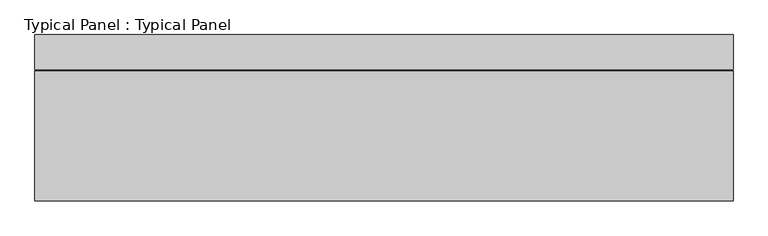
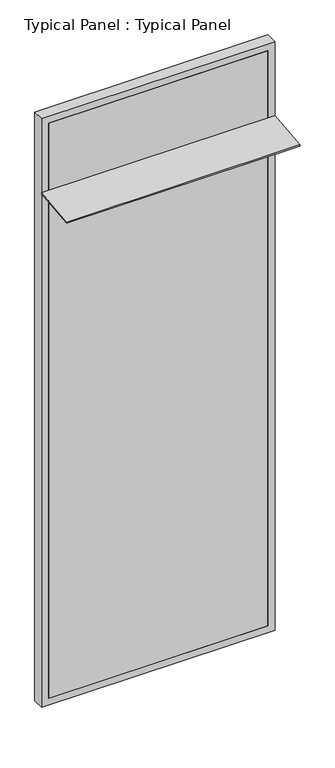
"""IFC4 building model written with IfcOpenShell, lengths in millimetres: plate geometry, Typical Panel : Typical Panel."""

from ifc_helpers import new_model, si_unit, frame, origin, place, context, project, spatial, polyline, outline, extrude, source, transform, mapped, element, save


def typical_panel_typical_panel_9cbe78d2(model_context):
    return source(origin(), model_context, "Body", "SweptSolid", [
        extrude(outline(polyline([(0.0, -280.0), (0.0, 0.0), (1500.0, 0.0), (1500.0, -280.0), (0.0, -280.0)])), frame((750.0, -282.4208461, 3460.7868113), z_axis=(0.0, -0.10452846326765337, 0.9945218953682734), x_axis=(-1.0, 0.0, 0.0)), (0.0, 0.0, 1.0), 10.0),
        extrude(outline(polyline([(0.0, -750.0), (0.0, 750.0), (4000.0, 750.0), (4000.0, -750.0), (0.0, -750.0)]), holes=[polyline([(45.0, 705.0), (45.0, -705.0), (3955.0, -705.0), (3955.0, 705.0), (45.0, 705.0)])]), frame((0.0, -1.5797986, 0.0), z_axis=(0.0, 1.0, 0.0), x_axis=(0.0, 0.0, 1.0)), (0.0, 0.0, 1.0), 75.0),
        extrude(outline(polyline([(705.0, -1.5797986), (-705.0, -1.5797986), (-705.0, 13.4202014), (705.0, 13.4202014), (705.0, -1.5797986)])), frame((0.0, 0.0, 45.0), z_axis=(0.0, 0.0, 1.0), x_axis=(1.0, 0.0, 0.0)), (0.0, 0.0, 1.0), 3910.0),
    ])


if __name__ == "__main__":
    model = new_model("IFC4")
    model_context = context("Model", 3, world=origin())
    ifc_project = project(units=[si_unit("LENGTHUNIT", "METRE", prefix="MILLI")], contexts=[model_context])
    site = spatial("IfcSite", under=ifc_project)
    building = spatial("IfcBuilding", under=site)
    placement = place(None, origin())
    typical_panel_typical_panel_shape = typical_panel_typical_panel_9cbe78d2(model_context)
    element("IfcPlate", 1, ObjectType="Typical Panel : Typical Panel", at=placement, inside=building, context=model_context, shape_type="MappedRepresentation", body=[
        mapped(typical_panel_typical_panel_shape, transform((0.0, 0.0, 0.0), x_axis=(1.0, 0.0, 0.0), y_axis=(0.0, 1.0, 0.0), z_axis=(0.0, 0.0, 1.0))),
    ])
    save(model, "model.ifc")
